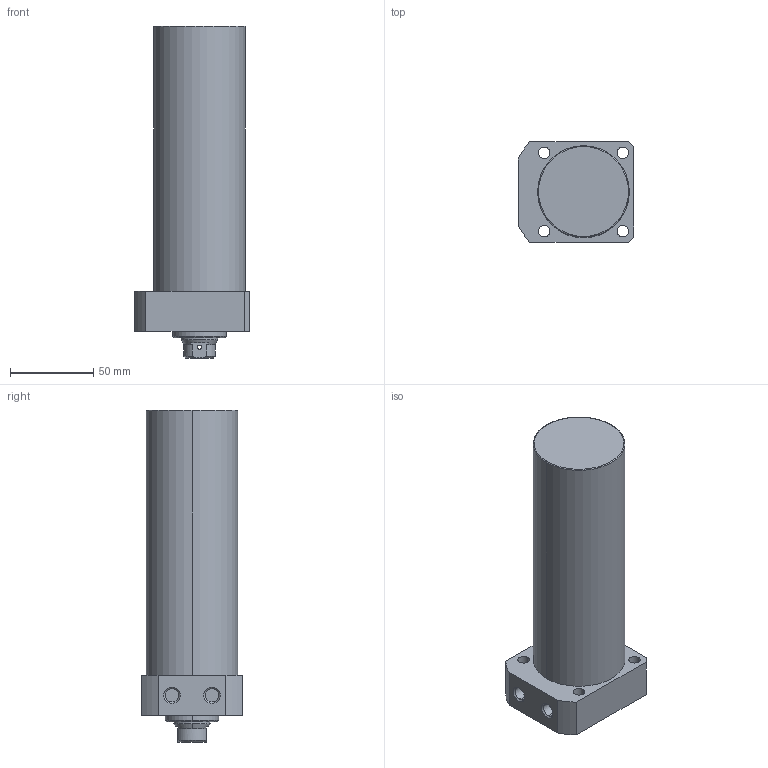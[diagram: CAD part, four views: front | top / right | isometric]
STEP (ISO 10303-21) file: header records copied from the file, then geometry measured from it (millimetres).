
FILE_DESCRIPTION (( 'STEP AP203' ), '1' );
FILE_NAME ('CLLR-055CB-130.STEP', '2019-12-17T11:58:15', ( '' ), ( '' ), 'SwSTEP 2.0', 'SolidWorks 2015', '' );
FILE_SCHEMA (( 'CONFIG_CONTROL_DESIGN' ));
Length unit declared in the file: millimetre
Products named in the file (1): CLLR-055CB-130
Bounding box: 69 x 60 x 199 mm (x, y, z)
Volume: 475342.2 mm3; surface area: 45808.7 mm2
Topology: 1 solids, 1 shells, 69 faces, 162 edges, 101 vertices
Faces by surface type: cylinder 33, plane 19, cone 15, torus 2
Entity records: 2175 total; most frequent: CARTESIAN_POINT 451, DIRECTION 368, ORIENTED_EDGE 320, EDGE_CURVE 160, AXIS2_PLACEMENT_3D 150, VERTEX_POINT 101, EDGE_LOOP 89, CIRCLE 80
